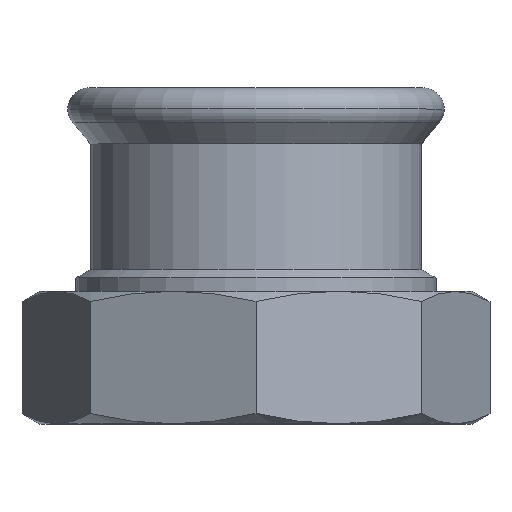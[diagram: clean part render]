
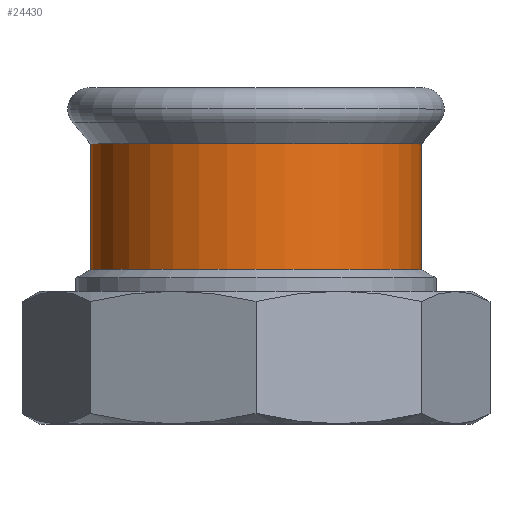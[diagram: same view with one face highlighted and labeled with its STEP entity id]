
A CAD part, top view. The second image highlights one B-rep face of the part: STEP entity #24430.
In plain terms, the highlighted cylindrical face has radius 28.7 mm (diameter 57.4 mm), a partial arc.
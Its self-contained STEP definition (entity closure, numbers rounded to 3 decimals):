
#3350=CARTESIAN_POINT('',(192.683,50.352,
0.));
#3360=VERTEX_POINT('',#3350);
#3540=CARTESIAN_POINT('',(135.283,50.352,0.));
#3550=VERTEX_POINT('',#3540);
#3580=CARTESIAN_POINT('',(163.983,50.352,0.));
#3590=DIRECTION('',(0.,-1.,0.));
#3600=DIRECTION('',(-1.,0.,0.));
#3610=AXIS2_PLACEMENT_3D('',#3580,#3590,#3600);
#3620=CIRCLE('',#3610,28.7);
#3630=EDGE_CURVE('',#3360,#3550,#3620,.T.);
#23880=CARTESIAN_POINT('',(192.683,72.125,0.));
#23890=VERTEX_POINT('',#23880);
#24070=CARTESIAN_POINT('',(135.283,72.125,
0.));
#24080=VERTEX_POINT('',#24070);
#24110=CARTESIAN_POINT('',(163.983,72.125,0.));
#24120=DIRECTION('',(0.,1.,0.));
#24130=DIRECTION('',(-1.,0.,0.));
#24140=AXIS2_PLACEMENT_3D('',#24110,#24120,#24130);
#24150=CIRCLE('',#24140,28.7);
#24210=CARTESIAN_POINT('',(163.983,59.229,0.));
#24220=DIRECTION('',(0.,-1.,0.));
#24230=DIRECTION('',(-1.,0.,0.));
#24240=AXIS2_PLACEMENT_3D('',#24210,#24220,#24230);
#24250=CYLINDRICAL_SURFACE('',#24240,28.7);
#24260=CARTESIAN_POINT('',(135.283,59.229,0.));
#24270=DIRECTION('',(0.,-1.,0.));
#24280=VECTOR('',#24270,1.);
#24290=LINE('',#24260,#24280);
#24300=EDGE_CURVE('',#24080,#3550,#24290,.T.);
#24310=ORIENTED_EDGE('',*,*,#24300,.T.);
#24320=EDGE_CURVE('',#24080,#23890,#24150,.T.);
#24330=ORIENTED_EDGE('',*,*,#24320,.F.);
#24340=CARTESIAN_POINT('',(192.683,59.229,
0.));
#24350=DIRECTION('',(0.,-1.,0.));
#24360=VECTOR('',#24350,1.);
#24370=LINE('',#24340,#24360);
#24380=EDGE_CURVE('',#23890,#3360,#24370,.T.);
#24390=ORIENTED_EDGE('',*,*,#24380,.F.);
#24400=ORIENTED_EDGE('',*,*,#3630,.F.);
#24410=EDGE_LOOP('',(#24400,#24390,#24330,#24310));
#24420=FACE_OUTER_BOUND('',#24410,.T.);
#24430=ADVANCED_FACE('',(#24420),#24250,.T.);
